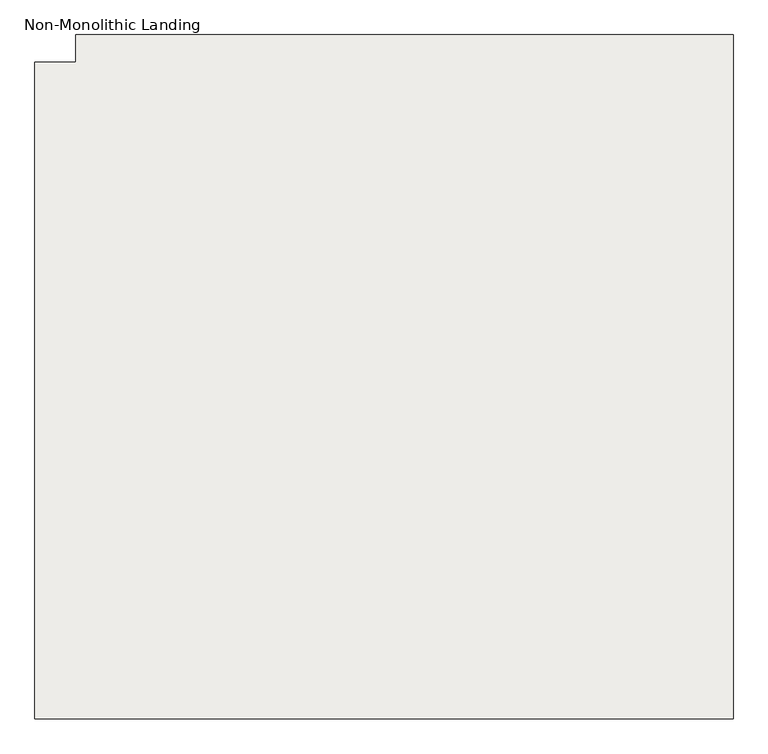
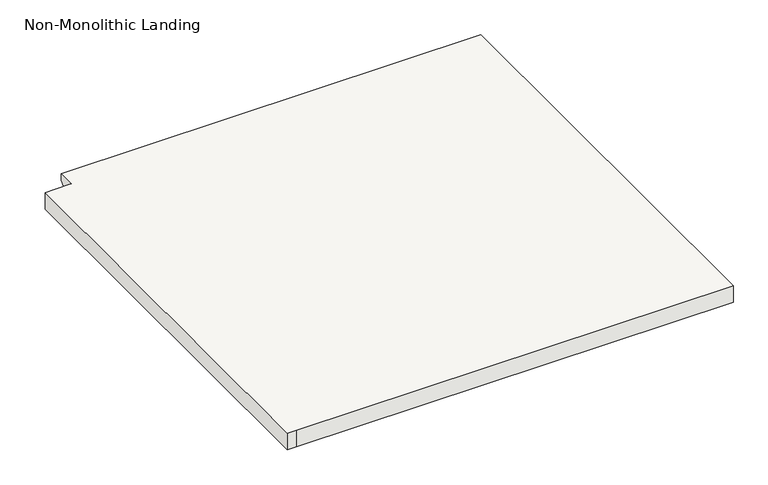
"""IFC4 building model written with IfcOpenShell, lengths in millimetres: slab geometry, Non-Monolithic Landing."""

from ifc_helpers import new_model, si_unit, origin, place, context, project, spatial, faceted_brep, source, transform, mapped, element, save


def non_monolithic_landing_897f782b(model_context):
    return source(origin(), model_context, "Body", "Brep", [
        faceted_brep([(18450.2726301, 6278.3746638, 2724.15), (18450.2726301, 6278.3746638, 2743.2), (19669.4726301, 6278.3746638, 2743.2), (19669.4726301, 6278.3746638, 2724.15), (18450.2726301, 6252.9746638, 2698.75), (19669.4726301, 6252.9746638, 2698.75), (18450.2726301, 6227.5746638, 2743.2), (18399.4726301, 6227.5746638, 2743.2), (18374.0726301, 6227.5746638, 2743.2), (18374.0726301, 5008.3746638, 2743.2), (18399.4726301, 5008.3746638, 2743.2), (19669.4726301, 5008.3746638, 2743.2), (18450.2726301, 6252.9746638, 2692.4), (19669.4726301, 6252.9746638, 2692.4), (19669.4726301, 5008.3746638, 2692.4), (18399.4726301, 5008.3746638, 2692.4), (18374.0726301, 5008.3746638, 2692.4), (18374.0726301, 6227.5746638, 2692.4), (18399.4726301, 6227.5746638, 2692.4), (18450.2726301, 6227.5746638, 2692.4)], [[[0, 1, 2, 3]], [[4, 0, 3, 5]], [[6, 7, 8, 9, 10, 11, 2, 1]], [[12, 13, 14, 15, 16, 17, 18, 19]], [[13, 12, 4, 5]], [[6, 1, 0, 4, 12, 19]], [[7, 6, 19, 18]], [[8, 7, 18, 17]], [[9, 8, 17, 16]], [[10, 9, 16, 15]], [[11, 10, 15, 14]], [[2, 11, 14, 13, 5, 3]]]),
    ])


if __name__ == "__main__":
    model = new_model("IFC4")
    model_context = context("Model", 3, world=origin())
    ifc_project = project(units=[si_unit("LENGTHUNIT", "METRE", prefix="MILLI")], contexts=[model_context])
    site = spatial("IfcSite", under=ifc_project)
    building = spatial("IfcBuilding", under=site)
    placement = place(None, origin())
    non_monolithic_landing_shape = non_monolithic_landing_897f782b(model_context)
    element("IfcSlab", 1, ObjectType="Non-Monolithic Landing", at=placement, inside=building, context=model_context, shape_type="MappedRepresentation", body=[
        mapped(non_monolithic_landing_shape, transform((0.0, 0.0, 0.0), x_axis=(1.0, 0.0, 0.0), y_axis=(0.0, 1.0, 0.0), z_axis=(0.0, 0.0, 1.0))),
    ])
    save(model, "model.ifc")
